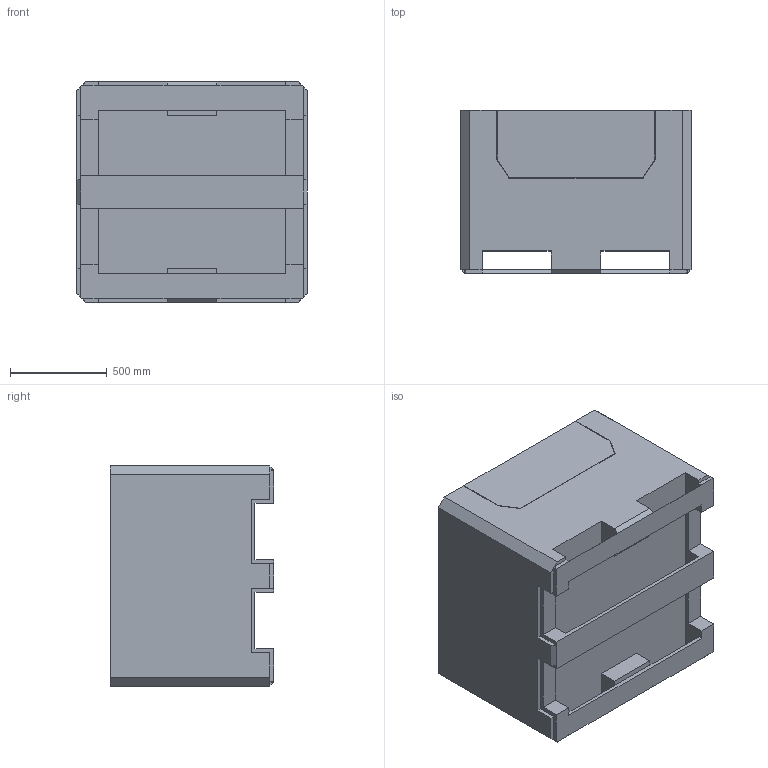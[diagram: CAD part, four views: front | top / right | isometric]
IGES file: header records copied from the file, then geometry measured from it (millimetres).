
Start section: SolidWorks IGES file using analytic representation for surfaces
Global section: file name: C:\Users\bconder\Documents\Production Models\IsoBins\4547-33 EU\4547-33 EU Block Model.IGS; native system: SolidWorks 2013; preprocessor: SolidWorks 2013; author: bconder; date: 130702.130545; units: inch
Bounding box: 1193.8 x 845.82 x 1143 mm (x, y, z)
Surface area: 10649564.7 mm2 (no closed solid volume)
Topology: 0 solids, 0 shells, 105 faces, 640 edges, 640 vertices
Faces by surface type: bspline 105
